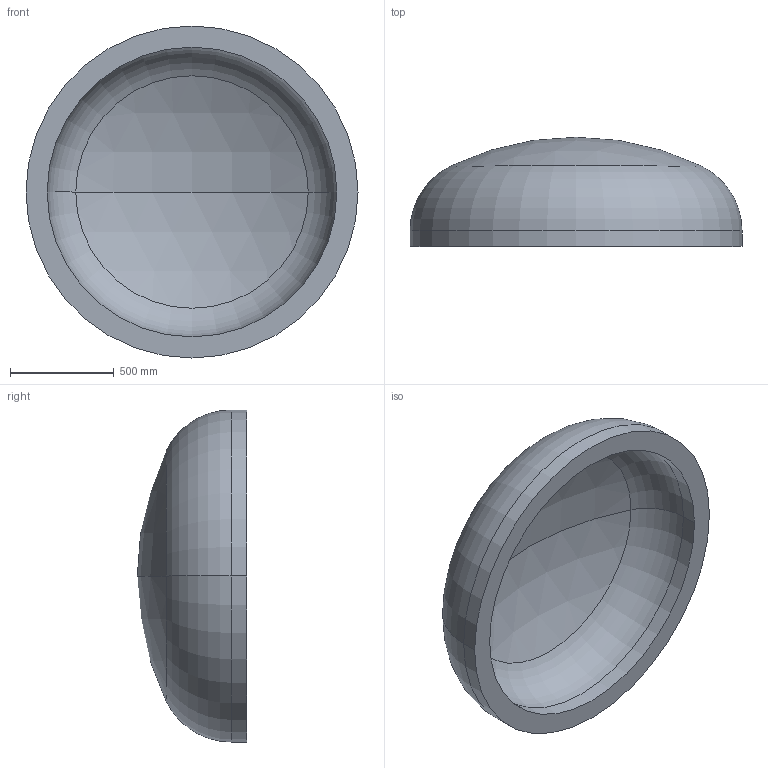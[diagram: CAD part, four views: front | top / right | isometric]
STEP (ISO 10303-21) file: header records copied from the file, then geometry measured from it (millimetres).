
FILE_DESCRIPTION (( 'STEP AP203' ), '1' );
FILE_NAME ('DIN 28013 Korbbogenform_-_Boden DIN 28013 - 1600 x 75 - I - s=102.step', '2016-07-01T11:30:05', ( '' ), ( '' ), 'SwSTEP 2.0', 'SolidWorks 2013', '' );
FILE_SCHEMA (( 'CONFIG_CONTROL_DESIGN' ));
Length unit declared in the file: millimetre
Products named in the file (1): DIN 28013 Korbbogenform_-_Boden DIN 28013 - 1600 x 75 - I - s=102
Bounding box: 1600 x 526.4 x 1600 mm (x, y, z)
Volume: 297625433.4 mm3; surface area: 6337604.3 mm2
Topology: 1 solids, 1 shells, 13 faces, 24 edges, 14 vertices
Faces by surface type: torus 4, cylinder 4, sphere 4, plane 1
Entity records: 407 total; most frequent: DIRECTION 72, CARTESIAN_POINT 52, ORIENTED_EDGE 48, AXIS2_PLACEMENT_3D 34, EDGE_CURVE 24, CIRCLE 20, EDGE_LOOP 14, VERTEX_POINT 14
